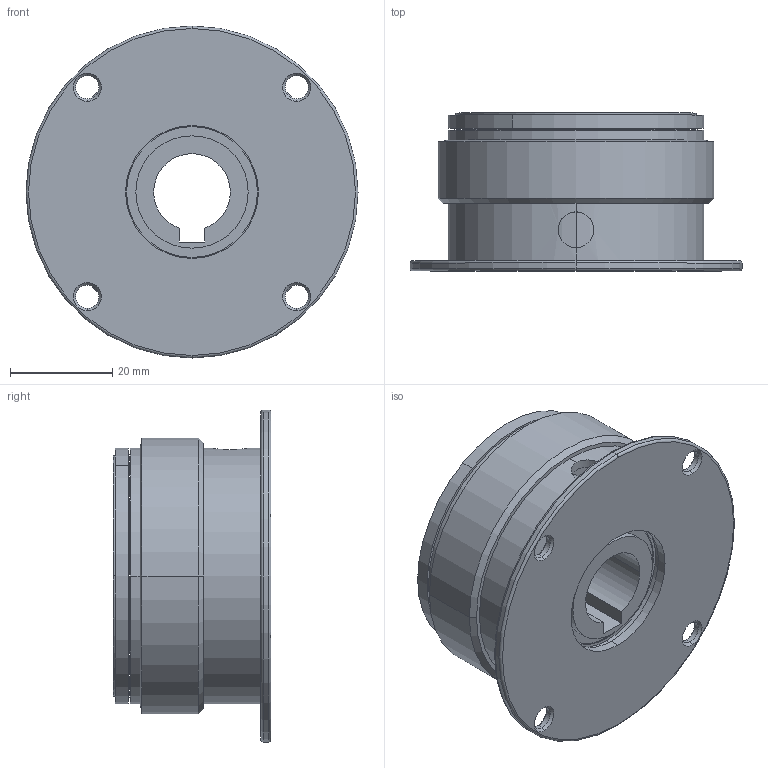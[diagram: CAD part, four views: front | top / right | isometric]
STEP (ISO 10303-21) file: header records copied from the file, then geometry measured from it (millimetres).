
FILE_DESCRIPTION (( 'STEP AP214' ), '1' );
FILE_NAME ('C-S24-F01-15.STEP', '2018-05-21T07:45:32', ( 'tec4' ), ( '' ), 'SwSTEP 2.0', 'SolidWorks 2015', '' );
FILE_SCHEMA (( 'AUTOMOTIVE_DESIGN' ));
Length unit declared in the file: millimetre
Products named in the file (1): C-S24-F01-15
Bounding box: 65 x 30.9 x 65 mm (x, y, z)
Surface area: 24783.8 mm2 (no closed solid volume)
Topology: 0 solids, 9 shells, 116 faces, 289 edges, 188 vertices
Faces by surface type: cylinder 67, cone 26, plane 19, torus 4
Entity records: 4982 total; most frequent: CARTESIAN_POINT 728, DIRECTION 697, ORIENTED_EDGE 532, AXIS2_PLACEMENT_3D 297, EDGE_CURVE 289, VERTEX_POINT 188, CIRCLE 180, EDGE_LOOP 158
